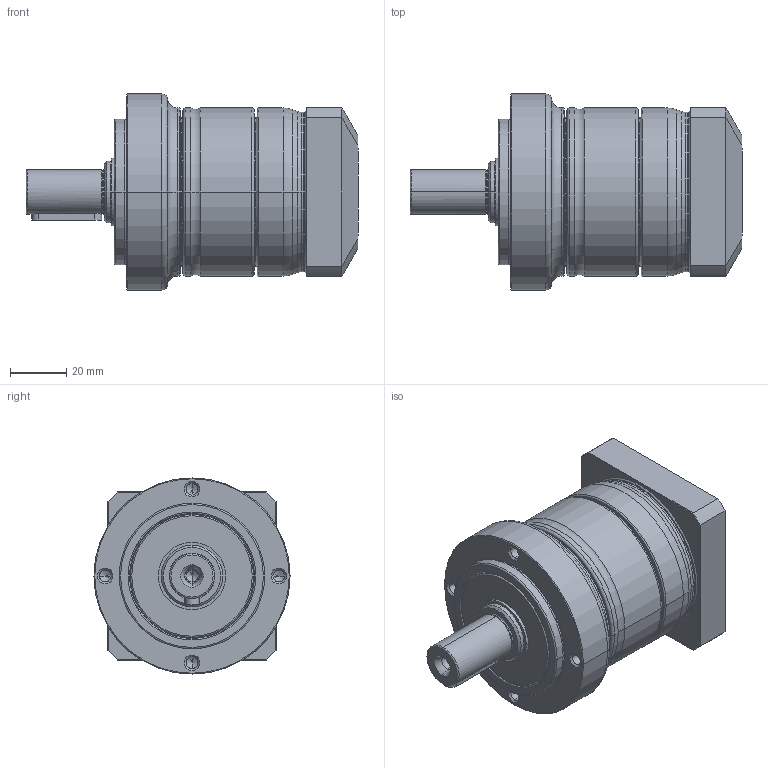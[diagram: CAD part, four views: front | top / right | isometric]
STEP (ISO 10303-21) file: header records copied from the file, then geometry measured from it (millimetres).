
FILE_DESCRIPTION((''),'2;1');
FILE_NAME('PE2-070_1ST_11-P0411200101_ASM','2017-05-26T',('d01943'),(''),'PRO/ENGINEER BY PARAMETRIC TECHNOLOGY CORPORATION, 2008410','PRO/ENGINEER BY PARAMETRIC TECHNOLOGY CORPORATION, 2008410','');
FILE_SCHEMA(('CONFIG_CONTROL_DESIGN'));
Length unit declared in the file: millimetre
Products named in the file (9): P1323210001; P0250200001; P1324200101; P0350201001; P0941201001; P0503200005; P0411200101; P1702300001; PE2-070_1ST_11-P0411200101_ASM
Assembly tree (8 placements, depth 2):
  PE2-070_1ST_11-P0411200101_ASM
    P1323210001
    P0250200001
    P1324200101
    P0350201001
    P0941201001
    P0503200005
    P0411200101
    P1702300001
Bounding box: 118.5 x 70 x 70 mm (x, y, z)
Volume: 206832 mm3; surface area: 67014 mm2
Topology: 8 solids, 8 shells, 458 faces, 1010 edges, 580 vertices
Faces by surface type: cone 136, cylinder 134, torus 96, plane 76, bspline 16
Entity records: 17255 total; most frequent: CARTESIAN_POINT 6959, DIRECTION 2339, ORIENTED_EDGE 1956, AXIS2_PLACEMENT_3D 1005, EDGE_CURVE 978, VERTEX_POINT 580, CIRCLE 546, EDGE_LOOP 518
